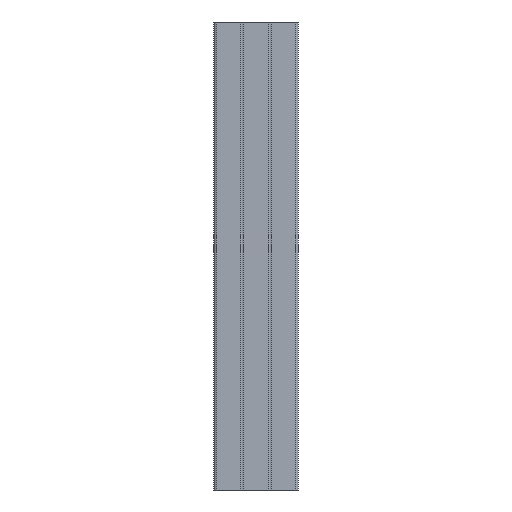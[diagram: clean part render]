
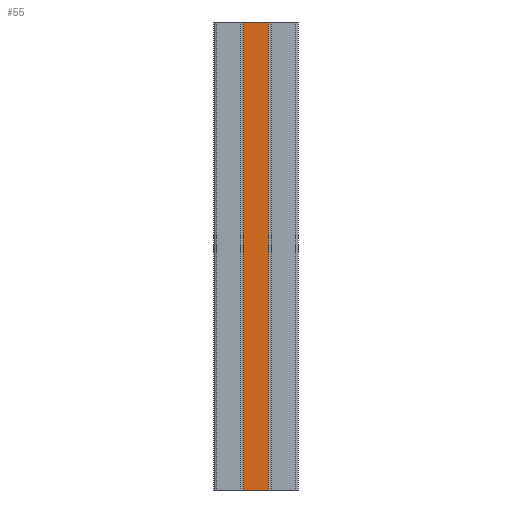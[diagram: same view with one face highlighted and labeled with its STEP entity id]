
A CAD part, front view. The second image highlights one B-rep face of the part: STEP entity #55.
In plain terms, the highlighted planar face has unit normal (0, -1, 0).
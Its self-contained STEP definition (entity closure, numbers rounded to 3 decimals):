
#51 = DIRECTION ( 'NONE',  ( 1., 0., 0. ) ) ;
#55 = ADVANCED_FACE ( 'NONE', ( #810 ), #576, .T. ) ;
#80 = EDGE_CURVE ( 'NONE', #2833, #1381, #620, .T. ) ;
#218 = CARTESIAN_POINT ( 'NONE',  ( -16.35, -15., 250. ) ) ;
#226 = ORIENTED_EDGE ( 'NONE', *, *, #80, .F. ) ;
#333 = VECTOR ( 'NONE', #627, 1000. ) ;
#389 = CARTESIAN_POINT ( 'NONE',  ( -15., -15., -250. ) ) ;
#455 = ORIENTED_EDGE ( 'NONE', *, *, #954, .F. ) ;
#576 = PLANE ( 'NONE',  #2486 ) ;
#620 = LINE ( 'NONE', #2414, #2859 ) ;
#627 = DIRECTION ( 'NONE',  ( 0., 0., 1. ) ) ;
#669 = LINE ( 'NONE', #2465, #1024 ) ;
#810 = FACE_OUTER_BOUND ( 'NONE', #1091, .T. ) ;
#814 = VERTEX_POINT ( 'NONE', #1039 ) ;
#900 = EDGE_CURVE ( 'NONE', #814, #1503, #669, .T. ) ;
#954 = EDGE_CURVE ( 'NONE', #814, #2833, #2281, .T. ) ;
#1024 = VECTOR ( 'NONE', #51, 1000. ) ;
#1039 = CARTESIAN_POINT ( 'NONE',  ( -43.65, -15., -250. ) ) ;
#1091 = EDGE_LOOP ( 'NONE', ( #455, #2130, #2008, #226 ) ) ;
#1234 = CARTESIAN_POINT ( 'NONE',  ( -16.35, -15., -250. ) ) ;
#1284 = CARTESIAN_POINT ( 'NONE',  ( -43.65, -15., 250. ) ) ;
#1381 = VERTEX_POINT ( 'NONE', #218 ) ;
#1503 = VERTEX_POINT ( 'NONE', #1234 ) ;
#1552 = VECTOR ( 'NONE', #2735, 1000. ) ;
#2006 = CARTESIAN_POINT ( 'NONE',  ( -43.65, -15., -250. ) ) ;
#2008 = ORIENTED_EDGE ( 'NONE', *, *, #2134, .T. ) ;
#2130 = ORIENTED_EDGE ( 'NONE', *, *, #900, .T. ) ;
#2134 = EDGE_CURVE ( 'NONE', #1503, #1381, #2909, .T. ) ;
#2189 = DIRECTION ( 'NONE',  ( 1., 0., 0. ) ) ;
#2281 = LINE ( 'NONE', #2006, #1552 ) ;
#2370 = DIRECTION ( 'NONE',  ( 0., -1., 0. ) ) ;
#2414 = CARTESIAN_POINT ( 'NONE',  ( -15., -15., 250. ) ) ;
#2465 = CARTESIAN_POINT ( 'NONE',  ( -15., -15., -250. ) ) ;
#2486 = AXIS2_PLACEMENT_3D ( 'NONE', #389, #2370, #2621 ) ;
#2621 = DIRECTION ( 'NONE',  ( 0., 0., -1. ) ) ;
#2648 = CARTESIAN_POINT ( 'NONE',  ( -16.35, -15., -250. ) ) ;
#2735 = DIRECTION ( 'NONE',  ( 0., 0., 1. ) ) ;
#2833 = VERTEX_POINT ( 'NONE', #1284 ) ;
#2859 = VECTOR ( 'NONE', #2189, 1000. ) ;
#2909 = LINE ( 'NONE', #2648, #333 ) ;
